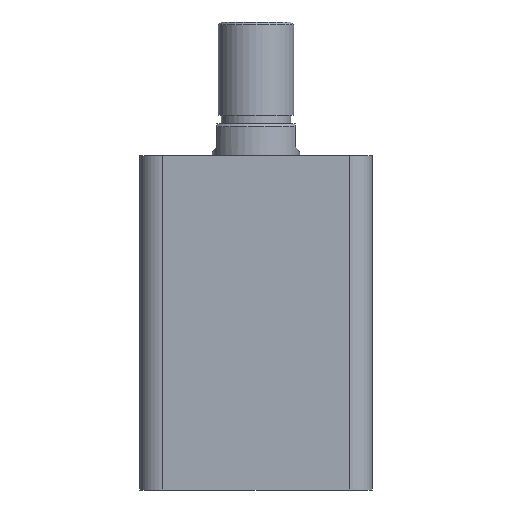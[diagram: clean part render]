
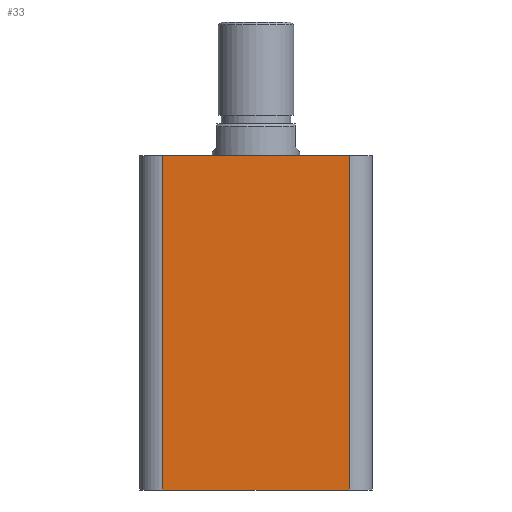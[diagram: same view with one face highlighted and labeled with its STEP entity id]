
A CAD part, front view. The second image highlights one B-rep face of the part: STEP entity #33.
In plain terms, the highlighted planar face has unit normal (0, -1, 0).
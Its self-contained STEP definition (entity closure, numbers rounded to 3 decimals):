
#33 = ADVANCED_FACE ( 'NONE', ( #712 ), #1968, .F. ) ;
#191 = CARTESIAN_POINT ( 'NONE',  ( -32., -40., 115. ) ) ;
#233 = CARTESIAN_POINT ( 'NONE',  ( 32., -40., 115. ) ) ;
#234 = DIRECTION ( 'NONE',  ( 0., 0., 1. ) ) ;
#241 = CARTESIAN_POINT ( 'NONE',  ( -40., -40., 0. ) ) ;
#246 = DIRECTION ( 'NONE',  ( 1., 0., 0. ) ) ;
#449 = ORIENTED_EDGE ( 'NONE', *, *, #992, .T. ) ;
#450 = ORIENTED_EDGE ( 'NONE', *, *, #991, .T. ) ;
#453 = ORIENTED_EDGE ( 'NONE', *, *, #993, .T. ) ;
#455 = ORIENTED_EDGE ( 'NONE', *, *, #831, .F. ) ;
#497 = VERTEX_POINT ( 'NONE', #1954 ) ;
#620 = VERTEX_POINT ( 'NONE', #1872 ) ;
#681 = VECTOR ( 'NONE', #2265, 1000. ) ;
#683 = LINE ( 'NONE', #2264, #681 ) ;
#712 = FACE_OUTER_BOUND ( 'NONE', #1573, .T. ) ;
#775 = VERTEX_POINT ( 'NONE', #1794 ) ;
#805 = VERTEX_POINT ( 'NONE', #2253 ) ;
#831 = EDGE_CURVE ( 'NONE', #620, #775, #683, .T. ) ;
#991 = EDGE_CURVE ( 'NONE', #497, #775, #2492, .T. ) ;
#992 = EDGE_CURVE ( 'NONE', #805, #497, #2510, .T. ) ;
#993 = EDGE_CURVE ( 'NONE', #620, #805, #2489, .T. ) ;
#1027 = AXIS2_PLACEMENT_3D ( 'NONE', #1970, #1966, #1964 ) ;
#1387 = DIRECTION ( 'NONE',  ( 0., 0., -1. ) ) ;
#1573 = EDGE_LOOP ( 'NONE', ( #455, #453, #449, #450 ) ) ;
#1794 = CARTESIAN_POINT ( 'NONE',  ( 32., -40., 115. ) ) ;
#1872 = CARTESIAN_POINT ( 'NONE',  ( -32., -40., 115. ) ) ;
#1954 = CARTESIAN_POINT ( 'NONE',  ( 32., -40., 0. ) ) ;
#1964 = DIRECTION ( 'NONE',  ( 0., 0., 1. ) ) ;
#1966 = DIRECTION ( 'NONE',  ( 0., 1., 0. ) ) ;
#1968 = PLANE ( 'NONE',  #1027 ) ;
#1970 = CARTESIAN_POINT ( 'NONE',  ( -40., -40., 115. ) ) ;
#2253 = CARTESIAN_POINT ( 'NONE',  ( -32., -40., 0. ) ) ;
#2264 = CARTESIAN_POINT ( 'NONE',  ( -40., -40., 115. ) ) ;
#2265 = DIRECTION ( 'NONE',  ( 1., 0., 0. ) ) ;
#2486 = VECTOR ( 'NONE', #1387, 1000. ) ;
#2488 = VECTOR ( 'NONE', #246, 1000. ) ;
#2489 = LINE ( 'NONE', #191, #2486 ) ;
#2490 = VECTOR ( 'NONE', #234, 1000. ) ;
#2492 = LINE ( 'NONE', #233, #2490 ) ;
#2510 = LINE ( 'NONE', #241, #2488 ) ;
